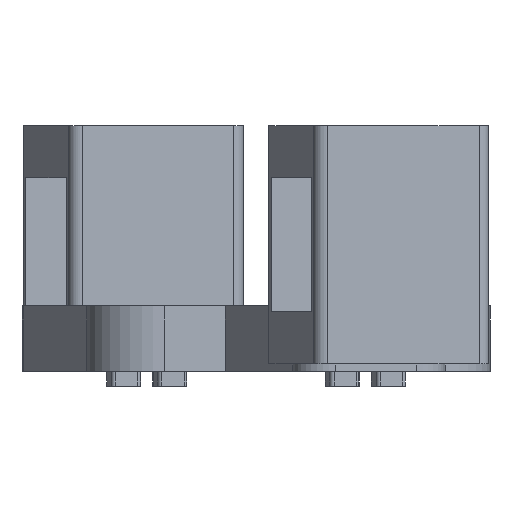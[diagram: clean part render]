
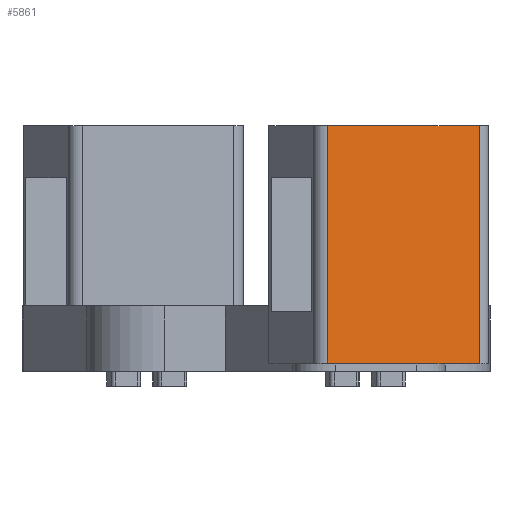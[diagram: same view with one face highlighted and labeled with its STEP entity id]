
A CAD part, front view. The second image highlights one B-rep face of the part: STEP entity #5861.
In plain terms, the highlighted planar face has unit normal (0.208, -0.978, 0).
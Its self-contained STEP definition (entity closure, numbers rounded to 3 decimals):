
#2342 = PLANE('',#2343);
#2343 = AXIS2_PLACEMENT_3D('',#2344,#2345,#2346);
#2344 = CARTESIAN_POINT('',(-30.28,-22.656,38.25));
#2345 = DIRECTION('',(0.,0.,1.));
#2346 = DIRECTION('',(-0.208,0.978,0.));
#2398 = PLANE('',#2399);
#2399 = AXIS2_PLACEMENT_3D('',#2400,#2401,#2402);
#2400 = CARTESIAN_POINT('',(-30.28,-22.656,46.25));
#2401 = DIRECTION('',(0.,0.,1.));
#2402 = DIRECTION('',(-0.208,0.978,0.));
#4951 = EDGE_CURVE('',#4952,#4954,#4956,.T.);
#4952 = VERTEX_POINT('',#4953);
#4953 = CARTESIAN_POINT('',(-30.672,-22.739,38.25));
#4954 = VERTEX_POINT('',#4955);
#4955 = CARTESIAN_POINT('',(-35.758,-23.82,38.25));
#4956 = SURFACE_CURVE('',#4957,(#4961,#4968),.PCURVE_S1.);
#4957 = LINE('',#4958,#4959);
#4958 = CARTESIAN_POINT('',(-30.28,-22.656,38.25));
#4959 = VECTOR('',#4960,1.);
#4960 = DIRECTION('',(-0.978,-0.208,0.));
#4961 = PCURVE('',#2342,#4962);
#4962 = DEFINITIONAL_REPRESENTATION('',(#4963),#4967);
#4963 = LINE('',#4964,#4965);
#4964 = CARTESIAN_POINT('',(0.,0.));
#4965 = VECTOR('',#4966,1.);
#4966 = DIRECTION('',(0.,1.));
#4967 = ( GEOMETRIC_REPRESENTATION_CONTEXT(2) 
PARAMETRIC_REPRESENTATION_CONTEXT() REPRESENTATION_CONTEXT('2D SPACE',''
  ) );
#4968 = PCURVE('',#4969,#4974);
#4969 = PLANE('',#4970);
#4970 = AXIS2_PLACEMENT_3D('',#4971,#4972,#4973);
#4971 = CARTESIAN_POINT('',(-30.28,-22.656,38.25));
#4972 = DIRECTION('',(-0.208,0.978,0.));
#4973 = DIRECTION('',(0.,0.,1.));
#4974 = DEFINITIONAL_REPRESENTATION('',(#4975),#4979);
#4975 = LINE('',#4976,#4977);
#4976 = CARTESIAN_POINT('',(0.,0.));
#4977 = VECTOR('',#4978,1.);
#4978 = DIRECTION('',(0.,-1.));
#4979 = ( GEOMETRIC_REPRESENTATION_CONTEXT(2) 
PARAMETRIC_REPRESENTATION_CONTEXT() REPRESENTATION_CONTEXT('2D SPACE',''
  ) );
#4998 = CYLINDRICAL_SURFACE('',#4999,0.4);
#4999 = AXIS2_PLACEMENT_3D('',#5000,#5001,#5002);
#5000 = CARTESIAN_POINT('',(-30.755,-22.348,38.25));
#5001 = DIRECTION('',(0.,0.,1.));
#5002 = DIRECTION('',(0.208,-0.978,0.));
#5140 = CYLINDRICAL_SURFACE('',#5141,0.4);
#5141 = AXIS2_PLACEMENT_3D('',#5142,#5143,#5144);
#5142 = CARTESIAN_POINT('',(-35.841,-23.429,38.25));
#5143 = DIRECTION('',(0.,0.,1.));
#5144 = DIRECTION('',(0.208,-0.978,0.));
#5206 = EDGE_CURVE('',#5207,#5209,#5211,.T.);
#5207 = VERTEX_POINT('',#5208);
#5208 = CARTESIAN_POINT('',(-30.672,-22.739,46.25));
#5209 = VERTEX_POINT('',#5210);
#5210 = CARTESIAN_POINT('',(-35.758,-23.82,46.25));
#5211 = SURFACE_CURVE('',#5212,(#5216,#5223),.PCURVE_S1.);
#5212 = LINE('',#5213,#5214);
#5213 = CARTESIAN_POINT('',(-30.28,-22.656,46.25));
#5214 = VECTOR('',#5215,1.);
#5215 = DIRECTION('',(-0.978,-0.208,0.));
#5216 = PCURVE('',#2398,#5217);
#5217 = DEFINITIONAL_REPRESENTATION('',(#5218),#5222);
#5218 = LINE('',#5219,#5220);
#5219 = CARTESIAN_POINT('',(0.,0.));
#5220 = VECTOR('',#5221,1.);
#5221 = DIRECTION('',(0.,1.));
#5222 = ( GEOMETRIC_REPRESENTATION_CONTEXT(2) 
PARAMETRIC_REPRESENTATION_CONTEXT() REPRESENTATION_CONTEXT('2D SPACE',''
  ) );
#5223 = PCURVE('',#4969,#5224);
#5224 = DEFINITIONAL_REPRESENTATION('',(#5225),#5229);
#5225 = LINE('',#5226,#5227);
#5226 = CARTESIAN_POINT('',(8.,0.));
#5227 = VECTOR('',#5228,1.);
#5228 = DIRECTION('',(0.,-1.));
#5229 = ( GEOMETRIC_REPRESENTATION_CONTEXT(2) 
PARAMETRIC_REPRESENTATION_CONTEXT() REPRESENTATION_CONTEXT('2D SPACE',''
  ) );
#5861 = ADVANCED_FACE('',(#5862),#4969,.F.);
#5862 = FACE_BOUND('',#5863,.F.);
#5863 = EDGE_LOOP('',(#5864,#5865,#5886,#5887));
#5864 = ORIENTED_EDGE('',*,*,#5206,.F.);
#5865 = ORIENTED_EDGE('',*,*,#5866,.F.);
#5866 = EDGE_CURVE('',#4952,#5207,#5867,.T.);
#5867 = SURFACE_CURVE('',#5868,(#5872,#5879),.PCURVE_S1.);
#5868 = LINE('',#5869,#5870);
#5869 = CARTESIAN_POINT('',(-30.672,-22.739,38.25));
#5870 = VECTOR('',#5871,1.);
#5871 = DIRECTION('',(0.,0.,1.));
#5872 = PCURVE('',#4969,#5873);
#5873 = DEFINITIONAL_REPRESENTATION('',(#5874),#5878);
#5874 = LINE('',#5875,#5876);
#5875 = CARTESIAN_POINT('',(0.,-0.4));
#5876 = VECTOR('',#5877,1.);
#5877 = DIRECTION('',(1.,0.));
#5878 = ( GEOMETRIC_REPRESENTATION_CONTEXT(2) 
PARAMETRIC_REPRESENTATION_CONTEXT() REPRESENTATION_CONTEXT('2D SPACE',''
  ) );
#5879 = PCURVE('',#4998,#5880);
#5880 = DEFINITIONAL_REPRESENTATION('',(#5881),#5885);
#5881 = LINE('',#5882,#5883);
#5882 = CARTESIAN_POINT('',(0.,0.));
#5883 = VECTOR('',#5884,1.);
#5884 = DIRECTION('',(0.,1.));
#5885 = ( GEOMETRIC_REPRESENTATION_CONTEXT(2) 
PARAMETRIC_REPRESENTATION_CONTEXT() REPRESENTATION_CONTEXT('2D SPACE',''
  ) );
#5886 = ORIENTED_EDGE('',*,*,#4951,.T.);
#5887 = ORIENTED_EDGE('',*,*,#5888,.T.);
#5888 = EDGE_CURVE('',#4954,#5209,#5889,.T.);
#5889 = SURFACE_CURVE('',#5890,(#5894,#5901),.PCURVE_S1.);
#5890 = LINE('',#5891,#5892);
#5891 = CARTESIAN_POINT('',(-35.758,-23.82,38.25));
#5892 = VECTOR('',#5893,1.);
#5893 = DIRECTION('',(0.,0.,1.));
#5894 = PCURVE('',#4969,#5895);
#5895 = DEFINITIONAL_REPRESENTATION('',(#5896),#5900);
#5896 = LINE('',#5897,#5898);
#5897 = CARTESIAN_POINT('',(0.,-5.6));
#5898 = VECTOR('',#5899,1.);
#5899 = DIRECTION('',(1.,0.));
#5900 = ( GEOMETRIC_REPRESENTATION_CONTEXT(2) 
PARAMETRIC_REPRESENTATION_CONTEXT() REPRESENTATION_CONTEXT('2D SPACE',''
  ) );
#5901 = PCURVE('',#5140,#5902);
#5902 = DEFINITIONAL_REPRESENTATION('',(#5903),#5907);
#5903 = LINE('',#5904,#5905);
#5904 = CARTESIAN_POINT('',(-0.,0.));
#5905 = VECTOR('',#5906,1.);
#5906 = DIRECTION('',(-0.,1.));
#5907 = ( GEOMETRIC_REPRESENTATION_CONTEXT(2) 
PARAMETRIC_REPRESENTATION_CONTEXT() REPRESENTATION_CONTEXT('2D SPACE',''
  ) );
